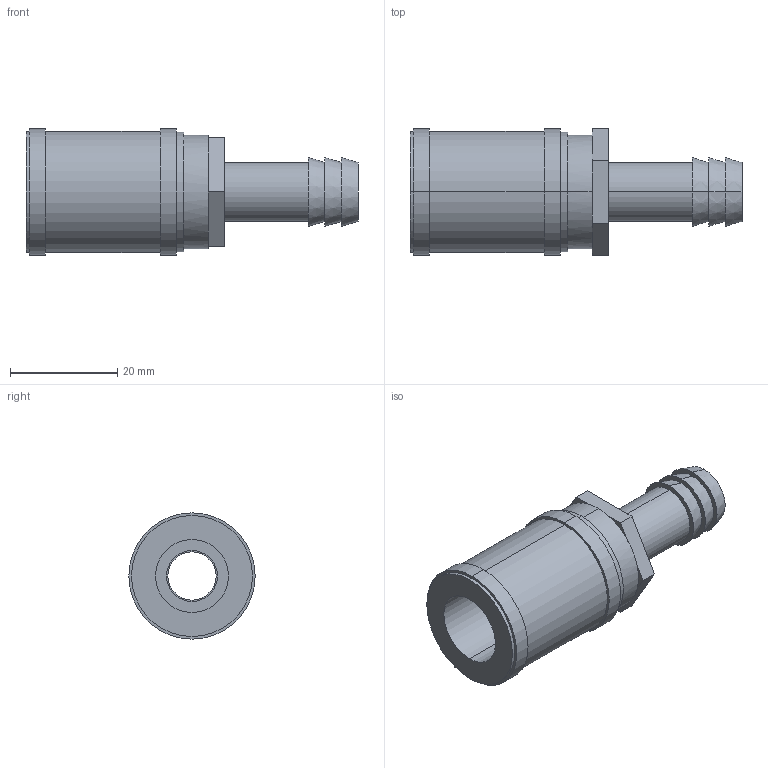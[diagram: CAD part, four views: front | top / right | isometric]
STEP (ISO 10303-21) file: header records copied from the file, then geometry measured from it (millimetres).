
FILE_DESCRIPTION (( 'STEP AP214' ), '1' );
FILE_NAME ('BR803-11.STEP', '2020-06-23T08:49:45', ( '' ), ( '' ), 'SwSTEP 2.0', 'SolidWorks 2018', '' );
FILE_SCHEMA (( 'AUTOMOTIVE_DESIGN' ));
Length unit declared in the file: millimetre
Products named in the file (1): BR803-11
Bounding box: 62 x 23.6 x 23.6 mm (x, y, z)
Volume: 10496.9 mm3; surface area: 6791.8 mm2
Topology: 2 solids, 2 shells, 57 faces, 120 edges, 76 vertices
Faces by surface type: plane 31, cylinder 20, cone 6
Entity records: 1593 total; most frequent: DIRECTION 300, CARTESIAN_POINT 254, ORIENTED_EDGE 240, AXIS2_PLACEMENT_3D 122, EDGE_CURVE 120, VERTEX_POINT 76, EDGE_LOOP 70, CIRCLE 64
